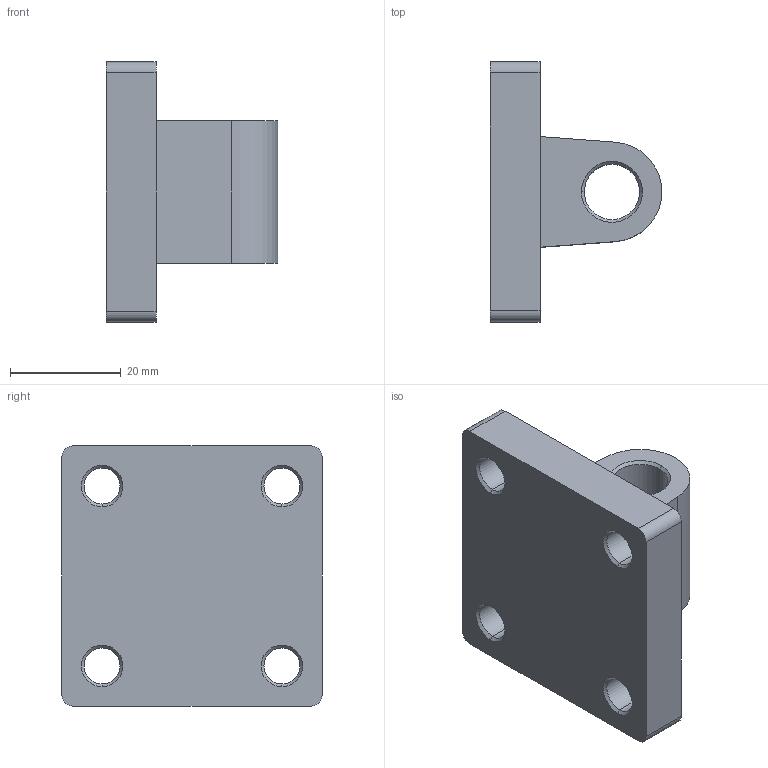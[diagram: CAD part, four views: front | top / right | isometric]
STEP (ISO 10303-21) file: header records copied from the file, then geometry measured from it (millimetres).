
FILE_DESCRIPTION (( 'STEP AP214' ), '1' );
FILE_NAME ('F-SI32CA.STEP', '2016-02-16T15:57:20', ( '' ), ( '' ), 'SwSTEP 2.0', 'SolidWorks 2016', '' );
FILE_SCHEMA (( 'AUTOMOTIVE_DESIGN' ));
Length unit declared in the file: millimetre
Products named in the file (1): F-SI32CA
Bounding box: 31 x 47 x 47 mm (x, y, z)
Volume: 26057.7 mm3; surface area: 8828.3 mm2
Topology: 1 solids, 1 shells, 65 faces, 146 edges, 88 vertices
Faces by surface type: cone 28, cylinder 23, plane 14
Entity records: 1864 total; most frequent: DIRECTION 352, CARTESIAN_POINT 300, ORIENTED_EDGE 292, EDGE_CURVE 146, AXIS2_PLACEMENT_3D 140, VERTEX_POINT 88, EDGE_LOOP 80, CIRCLE 74
